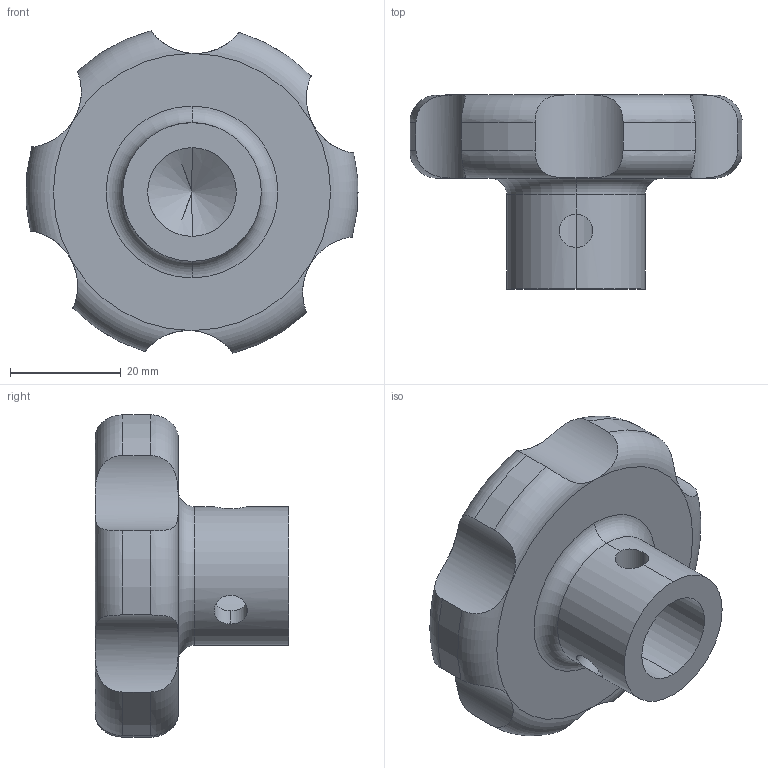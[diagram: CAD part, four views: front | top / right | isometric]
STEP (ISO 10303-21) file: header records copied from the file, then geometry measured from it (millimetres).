
FILE_DESCRIPTION (( 'STEP AP203' ), '1' );
FILE_NAME ('D09-160016.STEP', '2024-12-16T07:30:11', ( '' ), ( '' ), 'SwSTEP 2.0', 'SolidWorks 2021', '' );
FILE_SCHEMA (( 'CONFIG_CONTROL_DESIGN' ));
Length unit declared in the file: millimetre
Products named in the file (1): D09-160016
Bounding box: 59.91 x 35 x 58.15 mm (x, y, z)
Volume: 41817.2 mm3; surface area: 10063.7 mm2
Topology: 1 solids, 1 shells, 32 faces, 89 edges, 57 vertices
Faces by surface type: cylinder 21, torus 6, plane 3, cone 2
Entity records: 1872 total; most frequent: CARTESIAN_POINT 1005, ORIENTED_EDGE 174, DIRECTION 155, EDGE_CURVE 87, AXIS2_PLACEMENT_3D 65, VERTEX_POINT 57, EDGE_LOOP 36, CIRCLE 32
